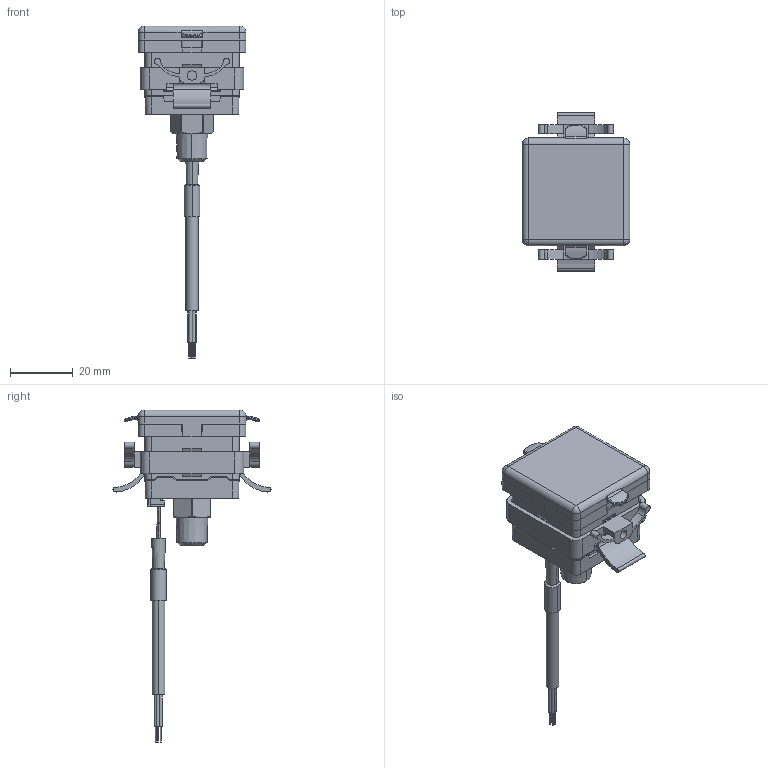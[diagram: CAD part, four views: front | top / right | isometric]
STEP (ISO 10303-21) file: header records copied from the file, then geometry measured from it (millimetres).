
FILE_DESCRIPTION((''),'2;1');
FILE_NAME('KP43-PA-D_ASM','2019-06-18T',('Stark'),(''),'CREO PARAMETRIC BY PTC INC, 2014500','CREO PARAMETRIC BY PTC INC, 2014500','');
FILE_SCHEMA(('CONFIG_CONTROL_DESIGN'));
Length unit declared in the file: millimetre
Products named in the file (3): KP43-PA-C; PA-D; KP43-PA-D_ASM
Assembly tree (2 placements, depth 2):
  KP43-PA-D_ASM
    KP43-PA-C
    PA-D
Bounding box: 34.4 x 50.4 x 105.9 mm (x, y, z)
Volume: 28707.5 mm3; surface area: 16632.1 mm2
Topology: 2 solids, 2 shells, 1110 faces, 2847 edges, 1792 vertices
Faces by surface type: plane 809, cylinder 198, bspline 39, cone 30, torus 29, sphere 5
Entity records: 34816 total; most frequent: CARTESIAN_POINT 7781, ORIENTED_EDGE 5694, DIRECTION 5381, EDGE_CURVE 2847, VECTOR 2245, LINE 2245, VERTEX_POINT 1792, AXIS2_PLACEMENT_3D 1568
